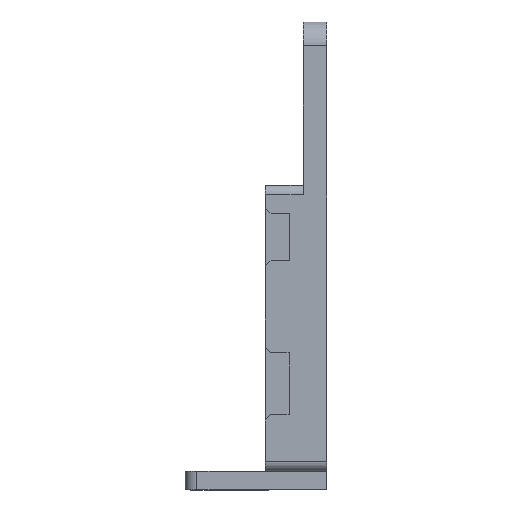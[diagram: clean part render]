
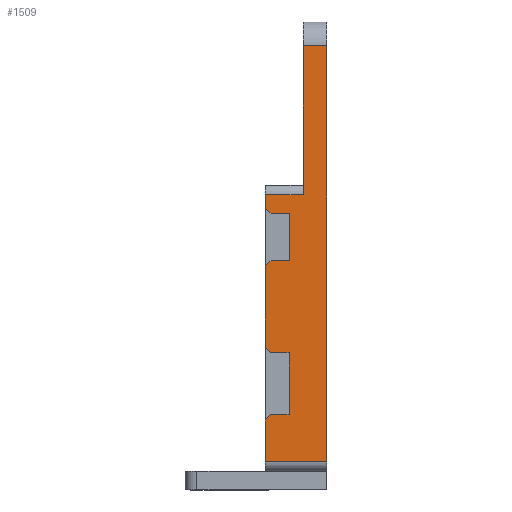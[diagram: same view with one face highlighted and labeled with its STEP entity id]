
A CAD part, left-side view. The second image highlights one B-rep face of the part: STEP entity #1509.
In plain terms, the highlighted planar face has unit normal (-1, 0, 0).
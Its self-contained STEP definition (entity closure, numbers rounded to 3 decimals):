
#244 = VERTEX_POINT ( 'NONE', #1042 ) ;
#262 = VERTEX_POINT ( 'NONE', #1072 ) ;
#303 = ORIENTED_EDGE ( 'NONE', *, *, #3205, .T. ) ;
#327 = EDGE_LOOP ( 'NONE', ( #654, #461, #500, #303, #486, #711, #512, #553, #490, #605, #585, #515, #533, #487, #591, #601, #509, #691 ) ) ;
#348 = VERTEX_POINT ( 'NONE', #2176 ) ;
#372 = VERTEX_POINT ( 'NONE', #2191 ) ;
#384 = VERTEX_POINT ( 'NONE', #2195 ) ;
#422 = VERTEX_POINT ( 'NONE', #2197 ) ;
#430 = VERTEX_POINT ( 'NONE', #2188 ) ;
#461 = ORIENTED_EDGE ( 'NONE', *, *, #3204, .T. ) ;
#486 = ORIENTED_EDGE ( 'NONE', *, *, #3134, .F. ) ;
#487 = ORIENTED_EDGE ( 'NONE', *, *, #3118, .F. ) ;
#490 = ORIENTED_EDGE ( 'NONE', *, *, #3208, .T. ) ;
#500 = ORIENTED_EDGE ( 'NONE', *, *, #3151, .F. ) ;
#509 = ORIENTED_EDGE ( 'NONE', *, *, #3153, .F. ) ;
#512 = ORIENTED_EDGE ( 'NONE', *, *, #3207, .F. ) ;
#515 = ORIENTED_EDGE ( 'NONE', *, *, #3211, .T. ) ;
#533 = ORIENTED_EDGE ( 'NONE', *, *, #3212, .T. ) ;
#553 = ORIENTED_EDGE ( 'NONE', *, *, #3184, .F. ) ;
#585 = ORIENTED_EDGE ( 'NONE', *, *, #3210, .F. ) ;
#591 = ORIENTED_EDGE ( 'NONE', *, *, #3213, .F. ) ;
#601 = ORIENTED_EDGE ( 'NONE', *, *, #3214, .T. ) ;
#605 = ORIENTED_EDGE ( 'NONE', *, *, #3209, .T. ) ;
#654 = ORIENTED_EDGE ( 'NONE', *, *, #3203, .T. ) ;
#691 = ORIENTED_EDGE ( 'NONE', *, *, #3215, .T. ) ;
#711 = ORIENTED_EDGE ( 'NONE', *, *, #3206, .T. ) ;
#814 = VERTEX_POINT ( 'NONE', #2193 ) ;
#958 = FACE_OUTER_BOUND ( 'NONE', #327, .T. ) ;
#1042 = CARTESIAN_POINT ( 'NONE',  ( -75., 13., -36.692 ) ) ;
#1072 = CARTESIAN_POINT ( 'NONE',  ( -75., 8., -35.5 ) ) ;
#1509 = ADVANCED_FACE ( 'NONE', ( #958 ), #1979, .F. ) ;
#1852 = CARTESIAN_POINT ( 'NONE',  ( -75., 8., -35.5 ) ) ;
#1853 = DIRECTION ( 'NONE',  ( 0., 0., 1. ) ) ;
#1886 = CARTESIAN_POINT ( 'NONE',  ( -75., 13., -22.5 ) ) ;
#1887 = DIRECTION ( 'NONE',  ( 0., 0., 1. ) ) ;
#1972 = CARTESIAN_POINT ( 'NONE',  ( -75., 5., 47.5 ) ) ;
#1979 = PLANE ( 'NONE',  #2162 ) ;
#1981 = DIRECTION ( 'NONE',  ( 1., 0., 0. ) ) ;
#1982 = DIRECTION ( 'NONE',  ( 0., 0., -1. ) ) ;
#2016 = CARTESIAN_POINT ( 'NONE',  ( -75., 0., 42.5 ) ) ;
#2024 = CARTESIAN_POINT ( 'NONE',  ( -75., 0., -45.5 ) ) ;
#2029 = CARTESIAN_POINT ( 'NONE',  ( -75., 8., 7. ) ) ;
#2032 = CARTESIAN_POINT ( 'NONE',  ( -75., 12., -22.5 ) ) ;
#2051 = CARTESIAN_POINT ( 'NONE',  ( -75., 12., -35.5 ) ) ;
#2079 = CARTESIAN_POINT ( 'NONE',  ( -75., 11.808, 7. ) ) ;
#2097 = CARTESIAN_POINT ( 'NONE',  ( -75., 13., -4. ) ) ;
#2099 = CARTESIAN_POINT ( 'NONE',  ( -75., 8., -3. ) ) ;
#2105 = CARTESIAN_POINT ( 'NONE',  ( -75., 13., -21.308 ) ) ;
#2108 = CARTESIAN_POINT ( 'NONE',  ( -75., 11.808, -3. ) ) ;
#2162 = AXIS2_PLACEMENT_3D ( 'NONE', #1972, #1981, #1982 ) ;
#2176 = CARTESIAN_POINT ( 'NONE',  ( -75., 5., 11. ) ) ;
#2188 = CARTESIAN_POINT ( 'NONE',  ( -75., 13., -45.5 ) ) ;
#2191 = CARTESIAN_POINT ( 'NONE',  ( -75., 8., -22.5 ) ) ;
#2193 = CARTESIAN_POINT ( 'NONE',  ( -75., 13., 8. ) ) ;
#2195 = CARTESIAN_POINT ( 'NONE',  ( -75., 13., 11. ) ) ;
#2197 = CARTESIAN_POINT ( 'NONE',  ( -75., 5., 42.5 ) ) ;
#2239 = CARTESIAN_POINT ( 'NONE',  ( -75., 0., 47.5 ) ) ;
#2240 = DIRECTION ( 'NONE',  ( 0., 0., 1. ) ) ;
#2245 = CARTESIAN_POINT ( 'NONE',  ( -75., 5., 42.5 ) ) ;
#2250 = DIRECTION ( 'NONE',  ( 0., 1., 0. ) ) ;
#2251 = CARTESIAN_POINT ( 'NONE',  ( -75., 5., 11. ) ) ;
#2252 = DIRECTION ( 'NONE',  ( 0., 1., 0. ) ) ;
#2253 = CARTESIAN_POINT ( 'NONE',  ( -75., 11.808, 7. ) ) ;
#2254 = DIRECTION ( 'NONE',  ( 0., -0.766, -0.643 ) ) ;
#2255 = CARTESIAN_POINT ( 'NONE',  ( -75., 8., 7. ) ) ;
#2256 = DIRECTION ( 'NONE',  ( 0., 1., 0. ) ) ;
#2257 = CARTESIAN_POINT ( 'NONE',  ( -75., 8., -3. ) ) ;
#2258 = DIRECTION ( 'NONE',  ( 0., 1., 0. ) ) ;
#2259 = CARTESIAN_POINT ( 'NONE',  ( -75., 11.808, -3. ) ) ;
#2260 = DIRECTION ( 'NONE',  ( 0., 0.766, -0.643 ) ) ;
#2261 = CARTESIAN_POINT ( 'NONE',  ( -75., 13., -22.5 ) ) ;
#2262 = DIRECTION ( 'NONE',  ( 0., 0., 1. ) ) ;
#2263 = CARTESIAN_POINT ( 'NONE',  ( -75., 13., -21.308 ) ) ;
#2264 = DIRECTION ( 'NONE',  ( 0., -0.643, -0.766 ) ) ;
#2265 = CARTESIAN_POINT ( 'NONE',  ( -75., 13., -22.5 ) ) ;
#2266 = DIRECTION ( 'NONE',  ( 0., -1., 0. ) ) ;
#2267 = CARTESIAN_POINT ( 'NONE',  ( -75., 13., -35.5 ) ) ;
#2268 = DIRECTION ( 'NONE',  ( 0., -1., 0. ) ) ;
#2269 = CARTESIAN_POINT ( 'NONE',  ( -75., 13., -36.692 ) ) ;
#2270 = DIRECTION ( 'NONE',  ( 0., 0.643, -0.766 ) ) ;
#2271 = CARTESIAN_POINT ( 'NONE',  ( -75., 5., -45.5 ) ) ;
#2272 = DIRECTION ( 'NONE',  ( 0., -1., 0. ) ) ;
#2342 = CARTESIAN_POINT ( 'NONE',  ( -75., 5., 47.5 ) ) ;
#2343 = DIRECTION ( 'NONE',  ( 0., 0., 1. ) ) ;
#2355 = CARTESIAN_POINT ( 'NONE',  ( -75., 13., -47.5 ) ) ;
#2356 = DIRECTION ( 'NONE',  ( 0., 0., 1. ) ) ;
#2403 = CARTESIAN_POINT ( 'NONE',  ( -75., 8., 7. ) ) ;
#2404 = DIRECTION ( 'NONE',  ( 0., 0., 1. ) ) ;
#2571 = LINE ( 'NONE', #2403, #2573 ) ;
#2573 = VECTOR ( 'NONE', #2404, 1000. ) ;
#2627 = VECTOR ( 'NONE', #2356, 1000. ) ;
#2635 = LINE ( 'NONE', #2355, #2627 ) ;
#2661 = VECTOR ( 'NONE', #2343, 1000. ) ;
#2669 = VECTOR ( 'NONE', #1887, 1000. ) ;
#2682 = LINE ( 'NONE', #2342, #2661 ) ;
#2700 = LINE ( 'NONE', #1852, #2726 ) ;
#2716 = LINE ( 'NONE', #1886, #2669 ) ;
#2726 = VECTOR ( 'NONE', #1853, 1000. ) ;
#2741 = LINE ( 'NONE', #2261, #2804 ) ;
#2745 = VECTOR ( 'NONE', #2256, 1000. ) ;
#2747 = VECTOR ( 'NONE', #2266, 1000. ) ;
#2748 = LINE ( 'NONE', #2265, #2747 ) ;
#2749 = VECTOR ( 'NONE', #2268, 1000. ) ;
#2754 = LINE ( 'NONE', #2269, #2872 ) ;
#2758 = LINE ( 'NONE', #2267, #2749 ) ;
#2760 = LINE ( 'NONE', #2271, #2866 ) ;
#2772 = VECTOR ( 'NONE', #2254, 1000. ) ;
#2776 = VECTOR ( 'NONE', #2250, 1000. ) ;
#2777 = VECTOR ( 'NONE', #2252, 1000. ) ;
#2779 = LINE ( 'NONE', #2239, #2808 ) ;
#2795 = LINE ( 'NONE', #2251, #2777 ) ;
#2800 = LINE ( 'NONE', #2255, #2745 ) ;
#2804 = VECTOR ( 'NONE', #2262, 1000. ) ;
#2808 = VECTOR ( 'NONE', #2240, 1000. ) ;
#2809 = LINE ( 'NONE', #2253, #2772 ) ;
#2839 = LINE ( 'NONE', #2245, #2776 ) ;
#2841 = LINE ( 'NONE', #2257, #2868 ) ;
#2858 = VECTOR ( 'NONE', #2264, 1000. ) ;
#2861 = VECTOR ( 'NONE', #2260, 1000. ) ;
#2862 = LINE ( 'NONE', #2263, #2858 ) ;
#2866 = VECTOR ( 'NONE', #2272, 1000. ) ;
#2868 = VECTOR ( 'NONE', #2258, 1000. ) ;
#2869 = LINE ( 'NONE', #2259, #2861 ) ;
#2872 = VECTOR ( 'NONE', #2270, 1000. ) ;
#3118 = EDGE_CURVE ( 'NONE', #262, #372, #2700, .T. ) ;
#3134 = EDGE_CURVE ( 'NONE', #814, #384, #2716, .T. ) ;
#3151 = EDGE_CURVE ( 'NONE', #348, #422, #2682, .T. ) ;
#3153 = EDGE_CURVE ( 'NONE', #430, #244, #2635, .T. ) ;
#3184 = EDGE_CURVE ( 'NONE', #3353, #3278, #2571, .T. ) ;
#3203 = EDGE_CURVE ( 'NONE', #3273, #3264, #2779, .T. ) ;
#3204 = EDGE_CURVE ( 'NONE', #3264, #422, #2839, .T. ) ;
#3205 = EDGE_CURVE ( 'NONE', #348, #384, #2795, .T. ) ;
#3206 = EDGE_CURVE ( 'NONE', #814, #3330, #2809, .T. ) ;
#3207 = EDGE_CURVE ( 'NONE', #3278, #3330, #2800, .T. ) ;
#3208 = EDGE_CURVE ( 'NONE', #3353, #3362, #2841, .T. ) ;
#3209 = EDGE_CURVE ( 'NONE', #3362, #3351, #2869, .T. ) ;
#3210 = EDGE_CURVE ( 'NONE', #3359, #3351, #2741, .T. ) ;
#3211 = EDGE_CURVE ( 'NONE', #3359, #3282, #2862, .T. ) ;
#3212 = EDGE_CURVE ( 'NONE', #3282, #372, #2748, .T. ) ;
#3213 = EDGE_CURVE ( 'NONE', #3301, #262, #2758, .T. ) ;
#3214 = EDGE_CURVE ( 'NONE', #3301, #244, #2754, .T. ) ;
#3215 = EDGE_CURVE ( 'NONE', #430, #3273, #2760, .T. ) ;
#3264 = VERTEX_POINT ( 'NONE', #2016 ) ;
#3273 = VERTEX_POINT ( 'NONE', #2024 ) ;
#3278 = VERTEX_POINT ( 'NONE', #2029 ) ;
#3282 = VERTEX_POINT ( 'NONE', #2032 ) ;
#3301 = VERTEX_POINT ( 'NONE', #2051 ) ;
#3330 = VERTEX_POINT ( 'NONE', #2079 ) ;
#3351 = VERTEX_POINT ( 'NONE', #2097 ) ;
#3353 = VERTEX_POINT ( 'NONE', #2099 ) ;
#3359 = VERTEX_POINT ( 'NONE', #2105 ) ;
#3362 = VERTEX_POINT ( 'NONE', #2108 ) ;
